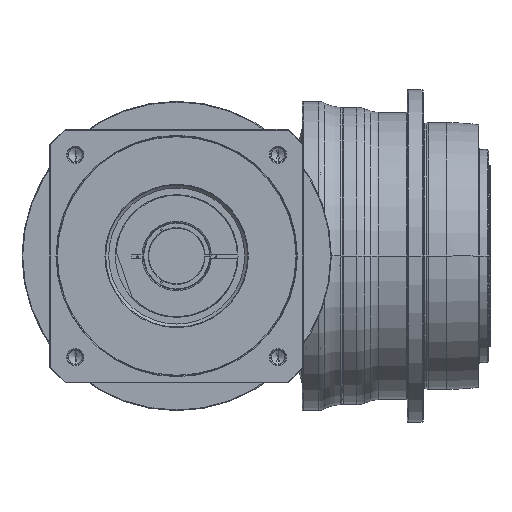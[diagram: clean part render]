
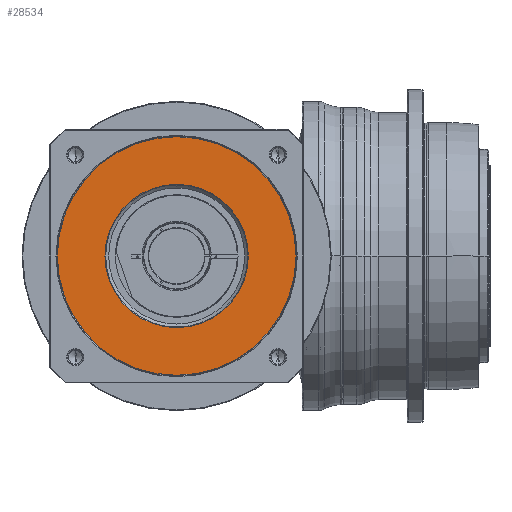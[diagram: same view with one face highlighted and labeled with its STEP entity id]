
A CAD part, front view. The second image highlights one B-rep face of the part: STEP entity #28534.
In plain terms, the highlighted planar face has unit normal (0, -1, 0) as drawn and (0, 0, 1) by its records, which use the part's own axes.
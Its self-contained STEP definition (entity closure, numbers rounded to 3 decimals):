
#27219=CARTESIAN_POINT('',(0.,0.,36.));
#27220=DIRECTION('',(0.,0.,-1.));
#27221=DIRECTION('',(0.,-1.,0.));
#27222=AXIS2_PLACEMENT_3D('',#27219,#27220,#27221);
#27224=CARTESIAN_POINT('',(0.,0.,36.));
#27225=DIRECTION('',(0.,0.,-1.));
#27226=DIRECTION('',(0.,1.,0.));
#27227=AXIS2_PLACEMENT_3D('',#27224,#27225,#27226);
#27229=CARTESIAN_POINT('',(0.,0.,
36.));
#27230=DIRECTION('',(0.,0.,-1.));
#27231=DIRECTION('',(1.,0.,0.));
#27232=AXIS2_PLACEMENT_3D('',#27229,#27230,#27231);
#27234=CARTESIAN_POINT('',(0.,0.,36.));
#27235=DIRECTION('',(0.,0.,-1.));
#27236=DIRECTION('',(-1.,0.,0.));
#27237=AXIS2_PLACEMENT_3D('',#27234,#27235,#27236);
#27818=CARTESIAN_POINT('',(0.,-89.5,36.));
#27819=CARTESIAN_POINT('',(0.,89.5,36.));
#27820=VERTEX_POINT('',#27818);
#27821=VERTEX_POINT('',#27819);
#27854=CARTESIAN_POINT('',(53.75,0.,36.));
#27855=CARTESIAN_POINT('',(-53.75,0.,
36.));
#27856=VERTEX_POINT('',#27854);
#27857=VERTEX_POINT('',#27855);
#28518=CARTESIAN_POINT('',(0.,0.,36.));
#28519=DIRECTION('',(0.,0.,-1.));
#28520=DIRECTION('',(0.,-1.,0.));
#28521=AXIS2_PLACEMENT_3D('',#28518,#28519,#28520);
#28522=PLANE('',#28521);
#28524=ORIENTED_EDGE('',*,*,#28523,.T.);
#28525=ORIENTED_EDGE('',*,*,#28508,.T.);
#28526=EDGE_LOOP('',(#28524,#28525));
#28527=FACE_OUTER_BOUND('',#28526,.F.);
#28529=ORIENTED_EDGE('',*,*,#28528,.F.);
#28531=ORIENTED_EDGE('',*,*,#28530,.F.);
#28532=EDGE_LOOP('',(#28529,#28531));
#28533=FACE_BOUND('',#28532,.F.);
#28534=ADVANCED_FACE('',(#28527,#28533),#28522,.F.);
#27223=CIRCLE('',#27222,89.5);
#27228=CIRCLE('',#27227,89.5);
#27233=CIRCLE('',#27232,53.75);
#27238=CIRCLE('',#27237,53.75);
#28508=EDGE_CURVE('',#27821,#27820,#27228,.T.);
#28523=EDGE_CURVE('',#27820,#27821,#27223,.T.);
#28528=EDGE_CURVE('',#27856,#27857,#27233,.T.);
#28530=EDGE_CURVE('',#27857,#27856,#27238,.T.);
